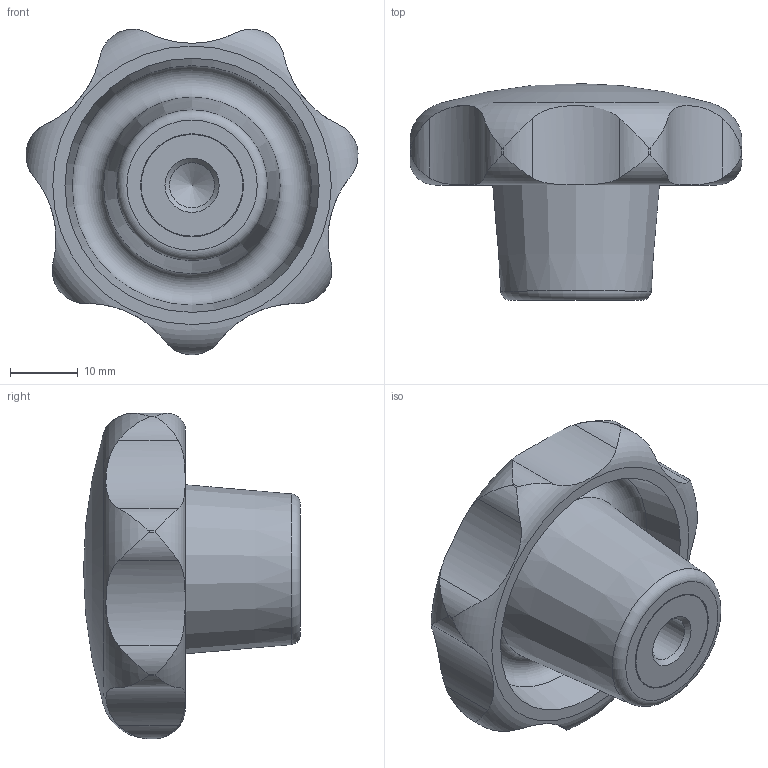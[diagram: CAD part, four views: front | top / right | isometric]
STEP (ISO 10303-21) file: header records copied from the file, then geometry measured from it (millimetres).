
FILE_DESCRIPTION( ( 'STEP AP203' ), '1' );
FILE_NAME( 'C:/Temp/Ganter_Step_05_03_2020/data/2_2/din_6336/din_6336_ku/din_6336_ku_k/Star knob DIN 6336-KU-50-M8-K-NI.stp', '2020-03-05T12:13:40', ( 'License CC BY-ND 4.0' ), ( 'CADENAS' ), ' ', 'PARTsolutions', ' ' );
FILE_SCHEMA( ( 'CONFIG_CONTROL_DESIGN' ) );
Length unit declared in the file: millimetre
Products named in the file (1): _Star knob DIN 6336-KU-50-M8-K-NI
Bounding box: 48.99 x 32 x 48.02 mm (x, y, z)
Volume: 23962.9 mm3; surface area: 7456.1 mm2
Topology: 1 solids, 1 shells, 44 faces, 115 edges, 75 vertices
Faces by surface type: cylinder 31, torus 4, plane 4, cone 4, sphere 1
Full cylindrical faces by diameter (mm): 6.647 x1, 15 x1, 15.2 x1
Entity records: 2022 total; most frequent: CARTESIAN_POINT 1027, ORIENTED_EDGE 196, DIRECTION 174, EDGE_CURVE 98, AXIS2_PLACEMENT_3D 73, VERTEX_POINT 72, EDGE_LOOP 58, FACE_OUTER_BOUND 51
